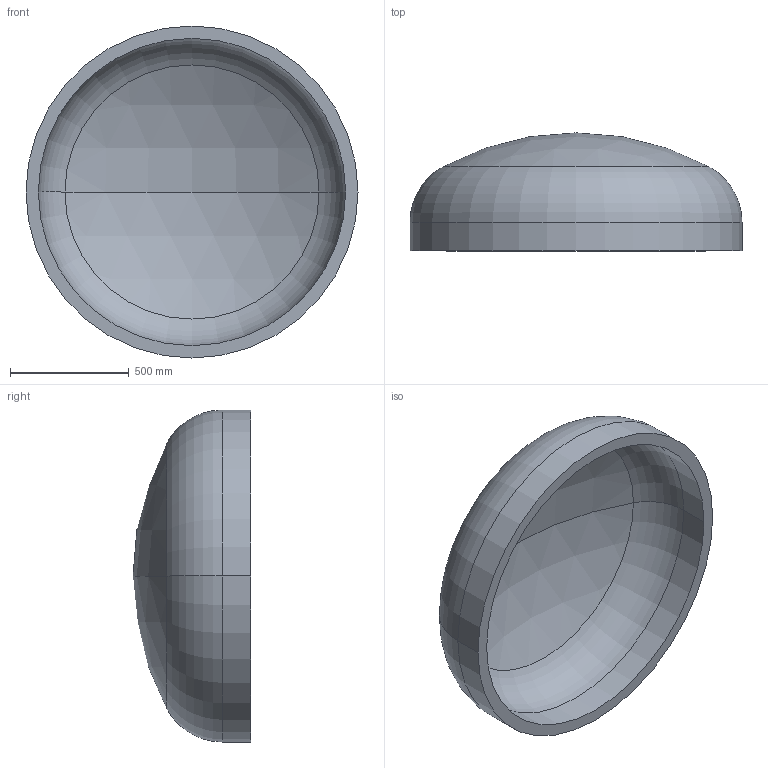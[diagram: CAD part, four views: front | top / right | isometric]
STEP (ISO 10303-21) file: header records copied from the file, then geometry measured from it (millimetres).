
FILE_DESCRIPTION (( 'STEP AP203' ), '1' );
FILE_NAME ('DIN 28013 Korbbogenform_-_Boden DIN 28013 - 1400 x 120 - I - s=52.step', '2016-07-01T10:21:02', ( '' ), ( '' ), 'SwSTEP 2.0', 'SolidWorks 2013', '' );
FILE_SCHEMA (( 'CONFIG_CONTROL_DESIGN' ));
Length unit declared in the file: millimetre
Products named in the file (1): DIN 28013 Korbbogenform_-_Boden DIN 28013 - 1400 x 120 - I - s=52
Bounding box: 1400 x 497.31 x 1400 mm (x, y, z)
Volume: 132009984.7 mm3; surface area: 5303182.1 mm2
Topology: 1 solids, 1 shells, 13 faces, 24 edges, 14 vertices
Faces by surface type: torus 4, cylinder 4, sphere 4, plane 1
Entity records: 407 total; most frequent: DIRECTION 72, CARTESIAN_POINT 52, ORIENTED_EDGE 48, AXIS2_PLACEMENT_3D 34, EDGE_CURVE 24, CIRCLE 20, EDGE_LOOP 14, VERTEX_POINT 14
